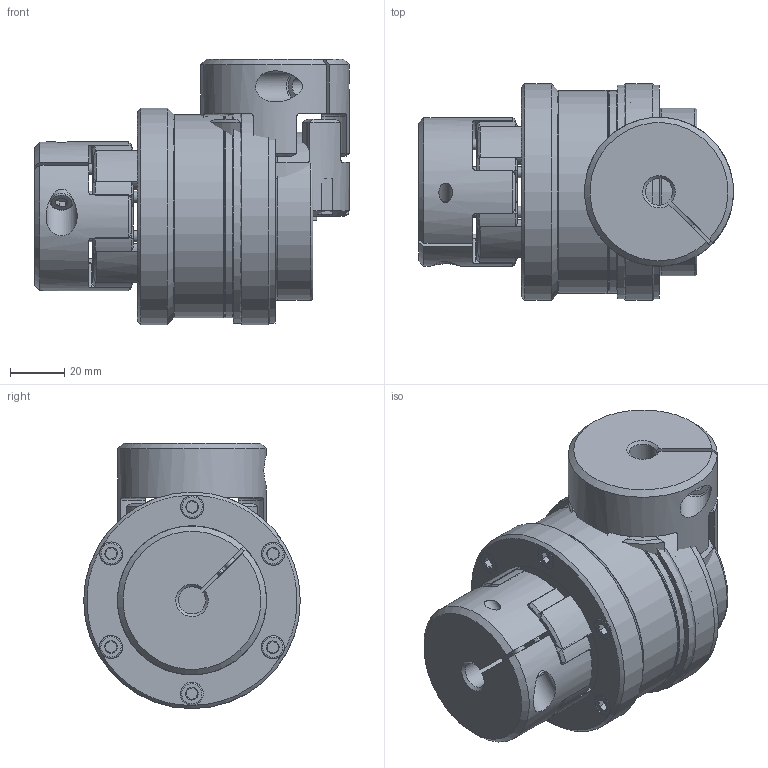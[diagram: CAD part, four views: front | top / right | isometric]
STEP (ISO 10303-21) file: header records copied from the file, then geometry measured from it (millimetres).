
FILE_DESCRIPTION( ( 'Unknown' ), '1' );
FILE_NAME( 'C:/Dokumente und Einstellungen/Sven/Desktop/hp kbk/E-KI/KBK EKI-24-90.stp', 'Unknown', ( 'Unknown' ), ( 'Unknown' ), 'XStep 1.0', 'Unknown', ' ' );
FILE_SCHEMA( ( 'automotive_design' ) );
Length unit declared in the file: millimetre
Products named in the file (17): Assem1; Assem2; Assem3; ball_bearing_-_6007_0_01_0; ball_bearing_-_6007_0_02_0; ball_bearing_-_6007_0_03_0; KBE 2C - 24_Nabe_0; KBK L-I-60 Grundkörper_0; Konusbuchse 60_0; a_35_0; Stellring 60_0; Druckring 60_0; Flansch 60_0; din_en_24017_m6x20_0; Elastomerflansch 24_0; Zahnkranz_24_Standard_0; ISO EN DIN 4762_M5x20_0
Bounding box: 116.3 x 80 x 98 mm (x, y, z)
Volume: 610658.1 mm3; surface area: 257253.4 mm2
Topology: 43 solids, 43 shells, 1199 faces, 2642 edges, 1625 vertices
Faces by surface type: cone 391, plane 381, cylinder 347, torus 80
Full cylindrical faces by diameter (mm): 2.5 x4, 3.242 x6, 4 x22, 4.134 x12, 4.917 x18, 5 x11, 5.2 x12, 6 x7, 6.5 x3, 6.6 x12, 8.5 x20, 8.8 x7, 11.5 x3, 15 x4, 27 x4, 30 x2, 30.2 x2, 33 x2, 35 x7, 43.7 x6, 44 x2, 46 x4, 46.5 x2, 49.5 x2, 53.6 x6, 55 x2, 61.3 x2, 62 x7, 66 x2, 75 x4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
Entity records: 12780 total; most frequent: CARTESIAN_POINT 2986, DIRECTION 2110, ORIENTED_EDGE 1666, AXIS2_PLACEMENT_3D 984, EDGE_CURVE 833, EDGE_LOOP 663, VERTEX_POINT 578, FACE_OUTER_BOUND 540
